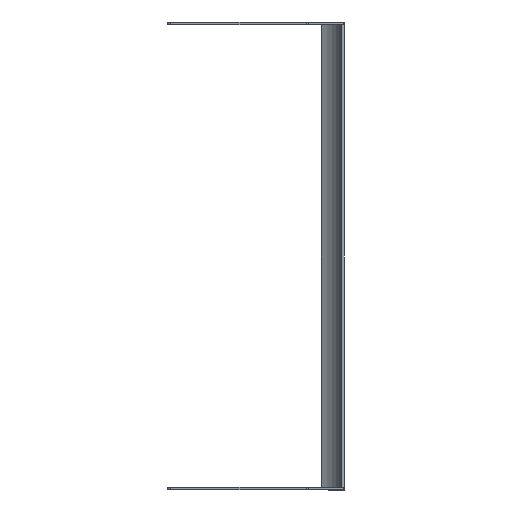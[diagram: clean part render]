
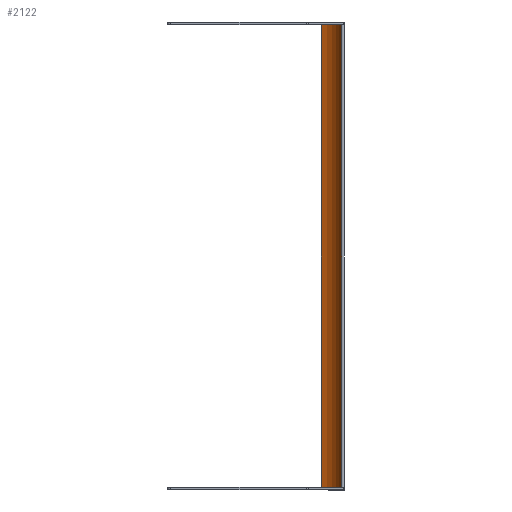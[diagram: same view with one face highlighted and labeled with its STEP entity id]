
A CAD part, front view. The second image highlights one B-rep face of the part: STEP entity #2122.
In plain terms, the highlighted cylindrical face has radius 40.64 mm (diameter 81.28 mm), a partial arc.
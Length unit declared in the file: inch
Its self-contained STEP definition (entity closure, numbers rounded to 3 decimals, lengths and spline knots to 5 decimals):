
#1829=CARTESIAN_POINT('',(-1.52,1.63,-10.118));
#1830=DIRECTION('',(0.,0.,-1.));
#1831=DIRECTION('',(0.914,-0.405,0.));
#1832=AXIS2_PLACEMENT_3D('',#1829,#1830,#1831);
#1876=CARTESIAN_POINT('',(-1.52,1.63,10.118));
#1877=DIRECTION('',(0.,0.,-1.));
#1878=DIRECTION('',(0.914,-0.405,0.));
#1879=AXIS2_PLACEMENT_3D('',#1876,#1877,#1878);
#1907=DIRECTION('',(0.,0.,1.));
#1908=VECTOR('',#1907,20.236);
#1909=CARTESIAN_POINT('',(-1.00032,0.11675,-10.118));
#1910=LINE('',#1909,#1908);
#1911=DIRECTION('',(0.,0.,1.));
#1912=VECTOR('',#1911,20.236);
#1913=CARTESIAN_POINT('',(-0.05742,0.98126,-10.118));
#1914=LINE('',#1913,#1912);
#1943=CARTESIAN_POINT('',(-0.05742,0.98126,-10.118));
#1944=VERTEX_POINT('',#1943);
#1945=CARTESIAN_POINT('',(-1.00032,0.11675,-10.118));
#1946=VERTEX_POINT('',#1945);
#1963=CARTESIAN_POINT('',(-0.05742,0.98126,10.118));
#1964=VERTEX_POINT('',#1963);
#1965=CARTESIAN_POINT('',(-1.00032,0.11675,10.118));
#1966=VERTEX_POINT('',#1965);
#2110=CARTESIAN_POINT('',(-1.52,1.63,-10.118));
#2111=DIRECTION('',(0.,0.,1.));
#2112=DIRECTION('',(1.,0.,0.));
#2113=AXIS2_PLACEMENT_3D('',#2110,#2111,#2112);
#2114=CYLINDRICAL_SURFACE('',#2113,1.6);
#2115=ORIENTED_EDGE('',*,*,#1980,.F.);
#2117=ORIENTED_EDGE('',*,*,#2116,.T.);
#2118=ORIENTED_EDGE('',*,*,#2036,.T.);
#2119=ORIENTED_EDGE('',*,*,#2103,.F.);
#2120=EDGE_LOOP('',(#2115,#2117,#2118,#2119));
#2121=FACE_OUTER_BOUND('',#2120,.F.);
#1833=CIRCLE('',#1832,1.6);
#1880=CIRCLE('',#1879,1.6);
#1980=EDGE_CURVE('',#1944,#1946,#1833,.T.);
#2036=EDGE_CURVE('',#1964,#1966,#1880,.T.);
#2103=EDGE_CURVE('',#1946,#1966,#1910,.T.);
#2116=EDGE_CURVE('',#1944,#1964,#1914,.T.);
#2122=ADVANCED_FACE('',(#2121),#2114,.F.);
